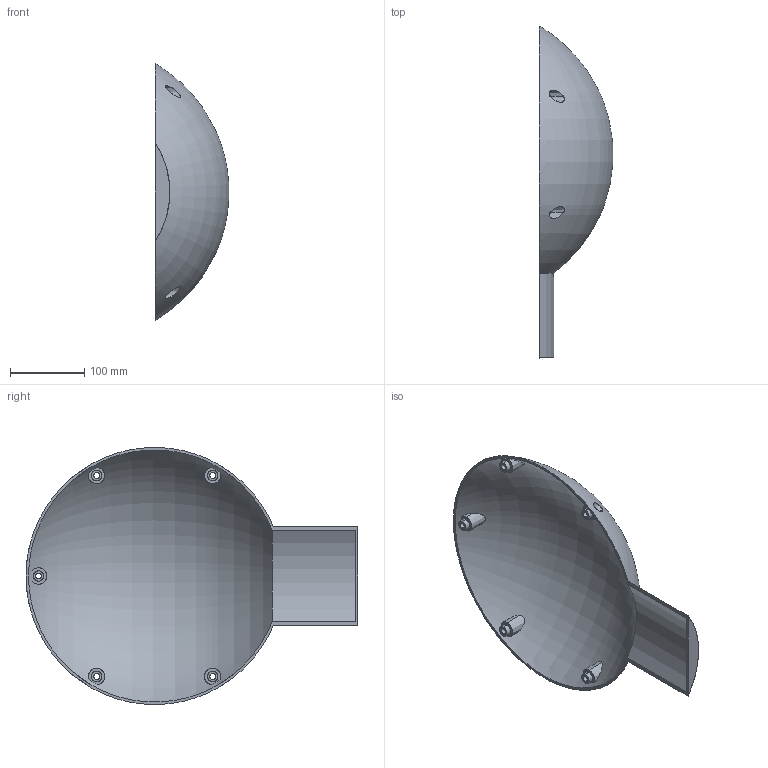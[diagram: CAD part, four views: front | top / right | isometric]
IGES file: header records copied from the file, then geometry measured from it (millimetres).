
Start section: SolidWorks IGES file using analytic representation for surfaces
Global section: file name: C:\Users\Martin\Desktop\Camera Turret\Camera Turret Side Cover.IGS; native system: SolidWorks 2018; preprocessor: SolidWorks 2018; author: Martin; date: 180417.081544; units: millimetre
Bounding box: 99.57 x 447.21 x 346.3 mm (x, y, z)
Surface area: 288743.2 mm2 (no closed solid volume)
Topology: 0 solids, 0 shells, 61 faces, 2125 edges, 2125 vertices
Faces by surface type: revolution 43, bspline 18
